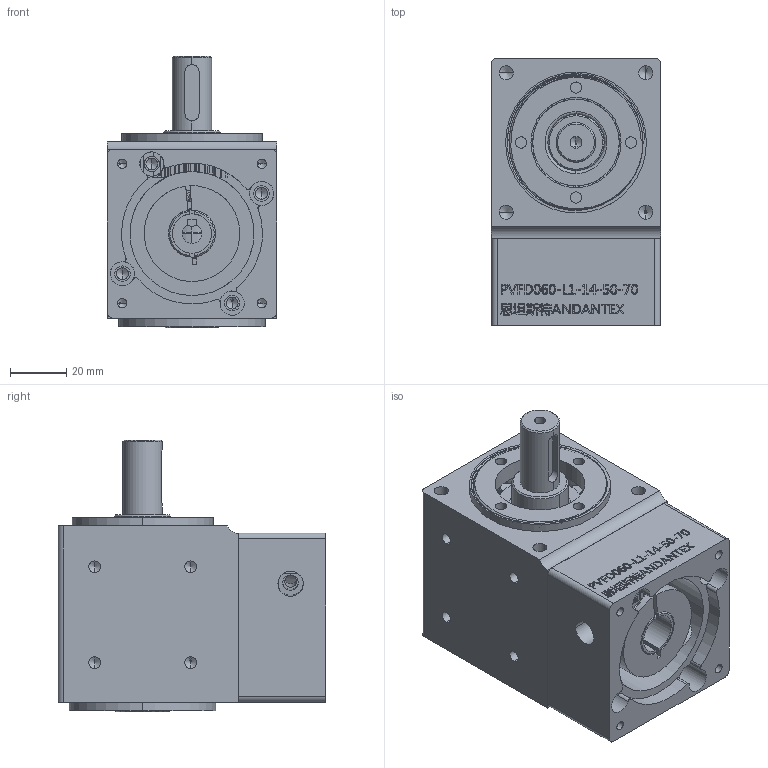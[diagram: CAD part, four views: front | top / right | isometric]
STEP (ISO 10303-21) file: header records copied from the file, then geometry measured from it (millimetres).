
FILE_DESCRIPTION (( 'STEP AP203' ), '1' );
FILE_NAME ('PVFD060-L1-14-50-70.STEP', '2023-07-07T06:37:59', ( 'Windows User' ), ( 'P R C' ), 'SwSTEP 2.0', 'SolidWorks 2016', '' );
FILE_SCHEMA (( 'CONFIG_CONTROL_DESIGN' ));
Length unit declared in the file: millimetre
Products named in the file (9): 褲极; 输入轴; 蹟譫; 30204_Rolling bearings 30204 GB 297-94; 標杶; 怀堤粣; 綴楊擘1; PVFD060-L1-14-50-70; 6003_Rolling bearings 6003 GB 276-94
Assembly tree (10 placements, depth 2):
  PVFD060-L1-14-50-70
    6003_Rolling bearings 6003 GB 276-94
    褲极
    输入轴
    蹟譫  x2
    30204_Rolling bearings 30204 GB 297-94  x2
    標杶
    怀堤粣
    綴楊擘1
Bounding box: 60 x 95 x 96.5 mm (x, y, z)
Volume: 259956.8 mm3; surface area: 112355.3 mm2
Topology: 20 solids, 20 shells, 1575 faces, 4844 edges, 3162 vertices
Faces by surface type: plane 656, bspline 484, cylinder 258, cone 177
Entity records: 67105 total; most frequent: CARTESIAN_POINT 32375, ORIENTED_EDGE 8022, DIRECTION 5761, EDGE_CURVE 4011, VERTEX_POINT 2651, AXIS2_PLACEMENT_3D 1975, LINE 1811, VECTOR 1811
